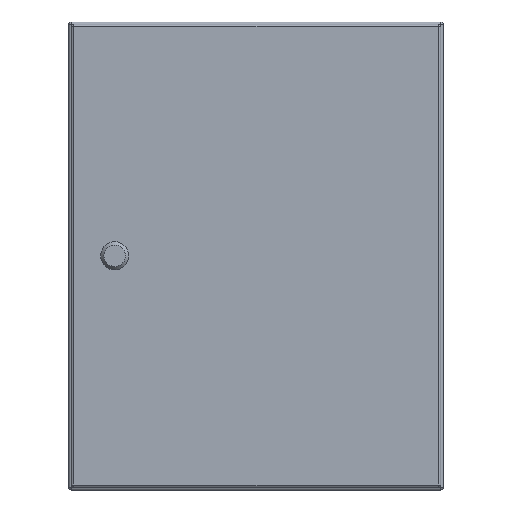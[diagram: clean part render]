
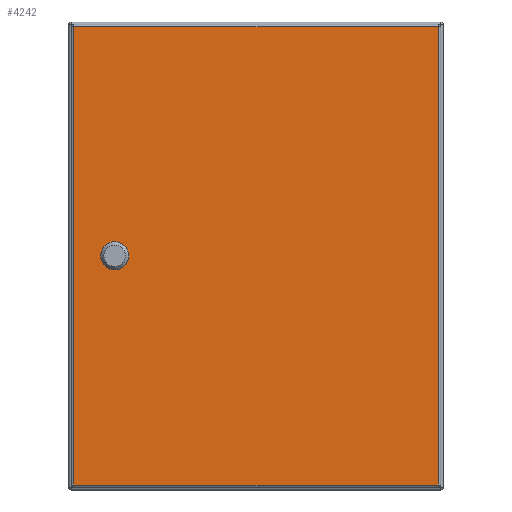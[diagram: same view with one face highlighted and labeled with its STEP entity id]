
A CAD part, top view. The second image highlights one B-rep face of the part: STEP entity #4242.
In plain terms, the highlighted planar face has unit normal (0, 0, 1) as drawn and (0, 0, -1) by its records, which use the part's own axes.
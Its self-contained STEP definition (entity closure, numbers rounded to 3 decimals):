
#1 = CARTESIAN_POINT ( 'NONE',  ( 197.5, 245., 0. ) ) ;
#42 = DIRECTION ( 'NONE',  ( 1., 0., 0. ) ) ;
#181 = ORIENTED_EDGE ( 'NONE', *, *, #2496, .F. ) ;
#184 = ORIENTED_EDGE ( 'NONE', *, *, #306, .T. ) ;
#306 = EDGE_CURVE ( 'NONE', #4640, #3846, #2924, .T. ) ;
#392 = CIRCLE ( 'NONE', #6770, 11.25 ) ;
#508 = CARTESIAN_POINT ( 'NONE',  ( 195., 245., 0. ) ) ;
#577 = DIRECTION ( 'NONE',  ( 0., 0., -1. ) ) ;
#618 = VECTOR ( 'NONE', #4216, 1000. ) ;
#659 = DIRECTION ( 'NONE',  ( 0., -1., 0. ) ) ;
#684 = DIRECTION ( 'NONE',  ( -1., 0., 0. ) ) ;
#846 = EDGE_CURVE ( 'NONE', #1691, #7238, #2952, .T. ) ;
#916 = CARTESIAN_POINT ( 'NONE',  ( 151., 0., 0. ) ) ;
#1048 = ORIENTED_EDGE ( 'NONE', *, *, #4292, .F. ) ;
#1107 = LINE ( 'NONE', #3387, #3233 ) ;
#1123 = VERTEX_POINT ( 'NONE', #2747 ) ;
#1153 = FACE_BOUND ( 'NONE', #7314, .T. ) ;
#1159 = CARTESIAN_POINT ( 'NONE',  ( 140.95, -5.056, 0. ) ) ;
#1267 = CARTESIAN_POINT ( 'NONE',  ( 156.056, -10.05, 0. ) ) ;
#1530 = DIRECTION ( 'NONE',  ( 0., 0., -1. ) ) ;
#1628 = CARTESIAN_POINT ( 'NONE',  ( 156.056, -10.05, 0. ) ) ;
#1691 = VERTEX_POINT ( 'NONE', #1159 ) ;
#1729 = EDGE_CURVE ( 'NONE', #6048, #4992, #5284, .T. ) ;
#1821 = VECTOR ( 'NONE', #2348, 1000. ) ;
#1892 = CARTESIAN_POINT ( 'NONE',  ( 161.05, -5.056, 0. ) ) ;
#1917 = DIRECTION ( 'NONE',  ( -1., 0., 0. ) ) ;
#1924 = LINE ( 'NONE', #1267, #4474 ) ;
#2055 = CARTESIAN_POINT ( 'NONE',  ( -195., -245., 0. ) ) ;
#2209 = CARTESIAN_POINT ( 'NONE',  ( 140.95, 5.056, 0. ) ) ;
#2242 = CARTESIAN_POINT ( 'NONE',  ( 156.056, 10.05, 0. ) ) ;
#2253 = CIRCLE ( 'NONE', #2865, 11.25 ) ;
#2320 = ORIENTED_EDGE ( 'NONE', *, *, #5994, .F. ) ;
#2321 = CARTESIAN_POINT ( 'NONE',  ( 151., 0., 0. ) ) ;
#2339 = CARTESIAN_POINT ( 'NONE',  ( 140.95, -5.056, 0. ) ) ;
#2348 = DIRECTION ( 'NONE',  ( 1., 0., 0. ) ) ;
#2496 = EDGE_CURVE ( 'NONE', #6055, #4215, #4797, .T. ) ;
#2701 = ORIENTED_EDGE ( 'NONE', *, *, #846, .F. ) ;
#2747 = CARTESIAN_POINT ( 'NONE',  ( 195., -245., 0. ) ) ;
#2798 = VERTEX_POINT ( 'NONE', #5697 ) ;
#2864 = EDGE_CURVE ( 'NONE', #2798, #1691, #7016, .T. ) ;
#2865 = AXIS2_PLACEMENT_3D ( 'NONE', #6694, #1530, #6267 ) ;
#2924 = LINE ( 'NONE', #1, #1821 ) ;
#2952 = LINE ( 'NONE', #2339, #5143 ) ;
#3106 = CARTESIAN_POINT ( 'NONE',  ( 195., -247.5, 0. ) ) ;
#3145 = EDGE_CURVE ( 'NONE', #3846, #1123, #7264, .T. ) ;
#3233 = VECTOR ( 'NONE', #5236, 1000. ) ;
#3244 = EDGE_CURVE ( 'NONE', #1123, #5350, #4923, .T. ) ;
#3331 = VECTOR ( 'NONE', #3772, 1000. ) ;
#3348 = ORIENTED_EDGE ( 'NONE', *, *, #5891, .T. ) ;
#3387 = CARTESIAN_POINT ( 'NONE',  ( -195., 247.5, 0. ) ) ;
#3517 = FACE_OUTER_BOUND ( 'NONE', #6489, .T. ) ;
#3636 = ORIENTED_EDGE ( 'NONE', *, *, #7342, .F. ) ;
#3768 = VECTOR ( 'NONE', #659, 1000. ) ;
#3772 = DIRECTION ( 'NONE',  ( 0., -1., 0. ) ) ;
#3846 = VERTEX_POINT ( 'NONE', #508 ) ;
#4215 = VERTEX_POINT ( 'NONE', #2242 ) ;
#4216 = DIRECTION ( 'NONE',  ( 1., 0., 0. ) ) ;
#4242 = ADVANCED_FACE ( 'NONE', ( #1153, #3517 ), #5863, .T. ) ;
#4292 = EDGE_CURVE ( 'NONE', #4215, #5671, #392, .T. ) ;
#4353 = ORIENTED_EDGE ( 'NONE', *, *, #1729, .F. ) ;
#4474 = VECTOR ( 'NONE', #684, 1000. ) ;
#4640 = VERTEX_POINT ( 'NONE', #5375 ) ;
#4680 = DIRECTION ( 'NONE',  ( 0., 0., -1. ) ) ;
#4748 = DIRECTION ( 'NONE',  ( 0., 0., -1. ) ) ;
#4785 = CARTESIAN_POINT ( 'NONE',  ( 161.05, 5.056, 0. ) ) ;
#4797 = LINE ( 'NONE', #7134, #618 ) ;
#4923 = LINE ( 'NONE', #5463, #6525 ) ;
#4992 = VERTEX_POINT ( 'NONE', #1628 ) ;
#5143 = VECTOR ( 'NONE', #6004, 1000. ) ;
#5236 = DIRECTION ( 'NONE',  ( 0., 1., 0. ) ) ;
#5281 = DIRECTION ( 'NONE',  ( -1., 0., 0. ) ) ;
#5284 = CIRCLE ( 'NONE', #5654, 11.25 ) ;
#5289 = CARTESIAN_POINT ( 'NONE',  ( 161.05, -5.056, 0. ) ) ;
#5350 = VERTEX_POINT ( 'NONE', #2055 ) ;
#5375 = CARTESIAN_POINT ( 'NONE',  ( -195., 245., 0. ) ) ;
#5463 = CARTESIAN_POINT ( 'NONE',  ( -197.5, -245., 0. ) ) ;
#5465 = CARTESIAN_POINT ( 'NONE',  ( 151., 0., 0. ) ) ;
#5598 = ORIENTED_EDGE ( 'NONE', *, *, #2864, .F. ) ;
#5654 = AXIS2_PLACEMENT_3D ( 'NONE', #2321, #4680, #7017 ) ;
#5671 = VERTEX_POINT ( 'NONE', #4785 ) ;
#5697 = CARTESIAN_POINT ( 'NONE',  ( 145.944, -10.05, 0. ) ) ;
#5748 = ORIENTED_EDGE ( 'NONE', *, *, #6284, .F. ) ;
#5863 = PLANE ( 'NONE',  #6056 ) ;
#5891 = EDGE_CURVE ( 'NONE', #5350, #4640, #1107, .T. ) ;
#5994 = EDGE_CURVE ( 'NONE', #4992, #2798, #1924, .T. ) ;
#6004 = DIRECTION ( 'NONE',  ( 0., 1., 0. ) ) ;
#6048 = VERTEX_POINT ( 'NONE', #1892 ) ;
#6055 = VERTEX_POINT ( 'NONE', #6501 ) ;
#6056 = AXIS2_PLACEMENT_3D ( 'NONE', #6468, #577, #5281 ) ;
#6160 = AXIS2_PLACEMENT_3D ( 'NONE', #916, #6342, #7460 ) ;
#6267 = DIRECTION ( 'NONE',  ( 1., 0., 0. ) ) ;
#6284 = EDGE_CURVE ( 'NONE', #7238, #6055, #2253, .T. ) ;
#6342 = DIRECTION ( 'NONE',  ( 0., 0., -1. ) ) ;
#6440 = LINE ( 'NONE', #5289, #3768 ) ;
#6468 = CARTESIAN_POINT ( 'NONE',  ( 197.5, 247.5, 0. ) ) ;
#6489 = EDGE_LOOP ( 'NONE', ( #3348, #184, #7335, #7043 ) ) ;
#6501 = CARTESIAN_POINT ( 'NONE',  ( 145.944, 10.05, 0. ) ) ;
#6525 = VECTOR ( 'NONE', #1917, 1000. ) ;
#6694 = CARTESIAN_POINT ( 'NONE',  ( 151., 0., 0. ) ) ;
#6770 = AXIS2_PLACEMENT_3D ( 'NONE', #5465, #4748, #42 ) ;
#7016 = CIRCLE ( 'NONE', #6160, 11.25 ) ;
#7017 = DIRECTION ( 'NONE',  ( -1., 0., 0. ) ) ;
#7043 = ORIENTED_EDGE ( 'NONE', *, *, #3244, .T. ) ;
#7134 = CARTESIAN_POINT ( 'NONE',  ( 156.056, 10.05, 0. ) ) ;
#7238 = VERTEX_POINT ( 'NONE', #2209 ) ;
#7264 = LINE ( 'NONE', #3106, #3331 ) ;
#7314 = EDGE_LOOP ( 'NONE', ( #5598, #2320, #4353, #3636, #1048, #181, #5748, #2701 ) ) ;
#7335 = ORIENTED_EDGE ( 'NONE', *, *, #3145, .T. ) ;
#7342 = EDGE_CURVE ( 'NONE', #5671, #6048, #6440, .T. ) ;
#7460 = DIRECTION ( 'NONE',  ( -1., 0., 0. ) ) ;
